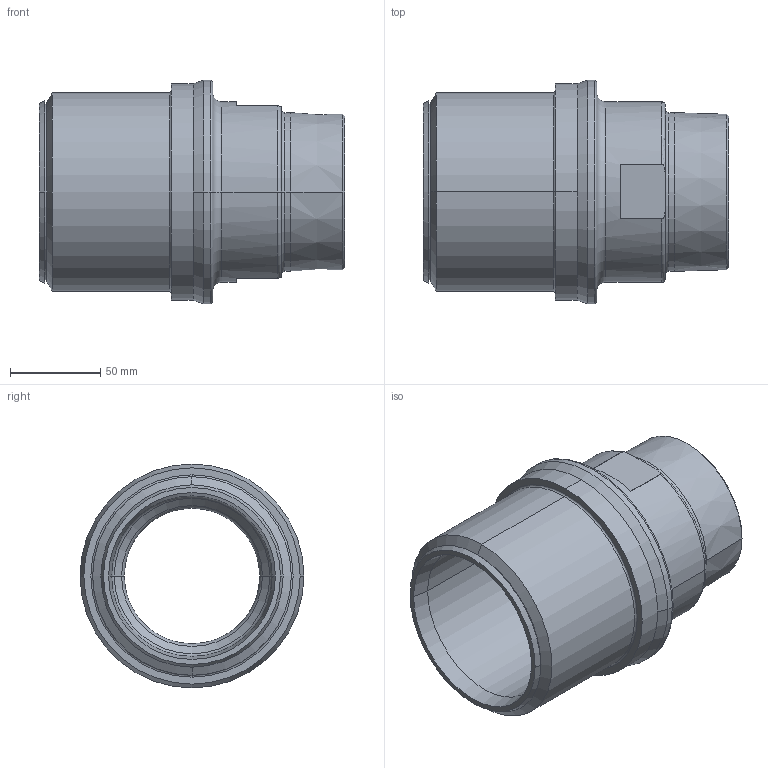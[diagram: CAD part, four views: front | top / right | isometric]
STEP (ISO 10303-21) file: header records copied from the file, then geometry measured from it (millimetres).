
FILE_DESCRIPTION (( 'STEP AP203' ), '1' );
FILE_NAME ('KP_C15-110-90M.step', '2011-08-08T12:03:48', ( '' ), ( '' ), 'SwSTEP 2.0', 'SolidWorks 2011', '' );
FILE_SCHEMA (( 'CONFIG_CONTROL_DESIGN' ));
Length unit declared in the file: millimetre
Products named in the file (1): KP_C15-110-90M
Bounding box: 169 x 124 x 124 mm (x, y, z)
Volume: 523786.8 mm3; surface area: 110526.3 mm2
Topology: 1 solids, 1 shells, 60 faces, 132 edges, 79 vertices
Faces by surface type: cylinder 16, torus 15, plane 15, cone 14
Entity records: 1795 total; most frequent: CARTESIAN_POINT 344, DIRECTION 324, ORIENTED_EDGE 264, AXIS2_PLACEMENT_3D 139, EDGE_CURVE 132, VERTEX_POINT 79, CIRCLE 78, EDGE_LOOP 67
